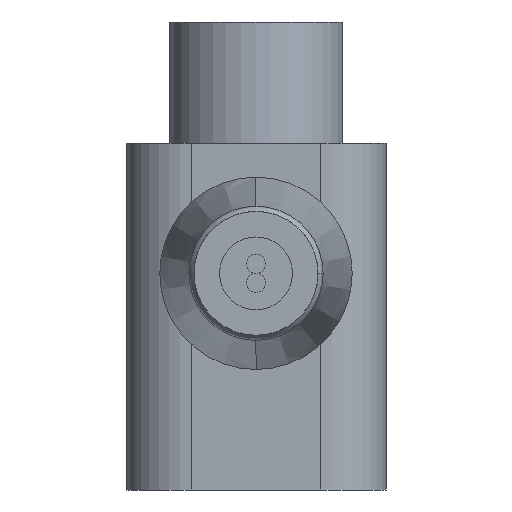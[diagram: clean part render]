
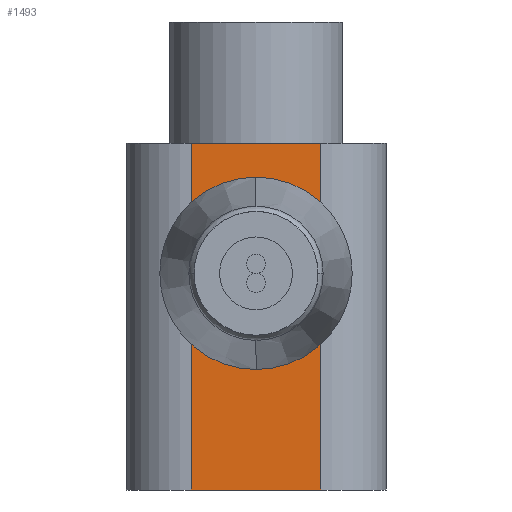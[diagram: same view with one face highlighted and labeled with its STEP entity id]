
A CAD part, front view. The second image highlights one B-rep face of the part: STEP entity #1493.
In plain terms, the highlighted planar face has unit normal (0, -1, 0).
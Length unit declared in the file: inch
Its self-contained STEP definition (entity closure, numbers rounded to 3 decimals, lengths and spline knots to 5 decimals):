
#29 = CARTESIAN_POINT ( 'NONE',  ( 0.187, -0.787, 1. ) ) ;
#419 = AXIS2_PLACEMENT_3D ( 'NONE', #3114, #3115, #3116 ) ;
#526 = DIRECTION ( 'NONE',  ( 1., 0., 0. ) ) ;
#527 = CARTESIAN_POINT ( 'NONE',  ( -0.375, -0.787, 1. ) ) ;
#581 = DIRECTION ( 'NONE',  ( 0., 0., -1. ) ) ;
#582 = CARTESIAN_POINT ( 'NONE',  ( 0.187, -0.787, 1. ) ) ;
#1188 = EDGE_CURVE ( 'NONE', #4218, #4081, #3886, .T. ) ;
#1207 = EDGE_CURVE ( 'NONE', #4082, #4218, #3530, .T. ) ;
#1232 = EDGE_CURVE ( 'NONE', #4116, #4082, #3498, .T. ) ;
#1235 = EDGE_CURVE ( 'NONE', #4116, #4081, #3660, .T. ) ;
#1364 = FACE_OUTER_BOUND ( 'NONE', #4213, .T. ) ;
#1493 = ADVANCED_FACE ( 'NONE', ( #1364 ), #3105, .F. ) ;
#1841 = DIRECTION ( 'NONE',  ( 1., 0., 0. ) ) ;
#1842 = CARTESIAN_POINT ( 'NONE',  ( -0.375, -0.787, 0. ) ) ;
#1843 = DIRECTION ( 'NONE',  ( 0., 0., 1. ) ) ;
#1844 = CARTESIAN_POINT ( 'NONE',  ( -0.187, -0.787, 1. ) ) ;
#2560 = ORIENTED_EDGE ( 'NONE', *, *, #1235, .T. ) ;
#2737 = ORIENTED_EDGE ( 'NONE', *, *, #1232, .F. ) ;
#2739 = ORIENTED_EDGE ( 'NONE', *, *, #1188, .F. ) ;
#2762 = ORIENTED_EDGE ( 'NONE', *, *, #1207, .F. ) ;
#3105 = PLANE ( 'NONE',  #419 ) ;
#3114 = CARTESIAN_POINT ( 'NONE',  ( -0.375, -0.787, 1. ) ) ;
#3115 = DIRECTION ( 'NONE',  ( 0., 1., 0. ) ) ;
#3116 = DIRECTION ( 'NONE',  ( -1., 0., 0. ) ) ;
#3303 = CARTESIAN_POINT ( 'NONE',  ( 0.187, -0.787, 0. ) ) ;
#3304 = CARTESIAN_POINT ( 'NONE',  ( -0.187, -0.787, 1. ) ) ;
#3315 = CARTESIAN_POINT ( 'NONE',  ( -0.187, -0.787, 0. ) ) ;
#3498 = LINE ( 'NONE', #1844, #3549 ) ;
#3530 = LINE ( 'NONE', #527, #3800 ) ;
#3549 = VECTOR ( 'NONE', #1843, 39.37008 ) ;
#3615 = VECTOR ( 'NONE', #581, 39.37008 ) ;
#3660 = LINE ( 'NONE', #1842, #3776 ) ;
#3776 = VECTOR ( 'NONE', #1841, 39.37008 ) ;
#3800 = VECTOR ( 'NONE', #526, 39.37008 ) ;
#3886 = LINE ( 'NONE', #582, #3615 ) ;
#4081 = VERTEX_POINT ( 'NONE', #3303 ) ;
#4082 = VERTEX_POINT ( 'NONE', #3304 ) ;
#4116 = VERTEX_POINT ( 'NONE', #3315 ) ;
#4213 = EDGE_LOOP ( 'NONE', ( #2739, #2762, #2737, #2560 ) ) ;
#4218 = VERTEX_POINT ( 'NONE', #29 ) ;
